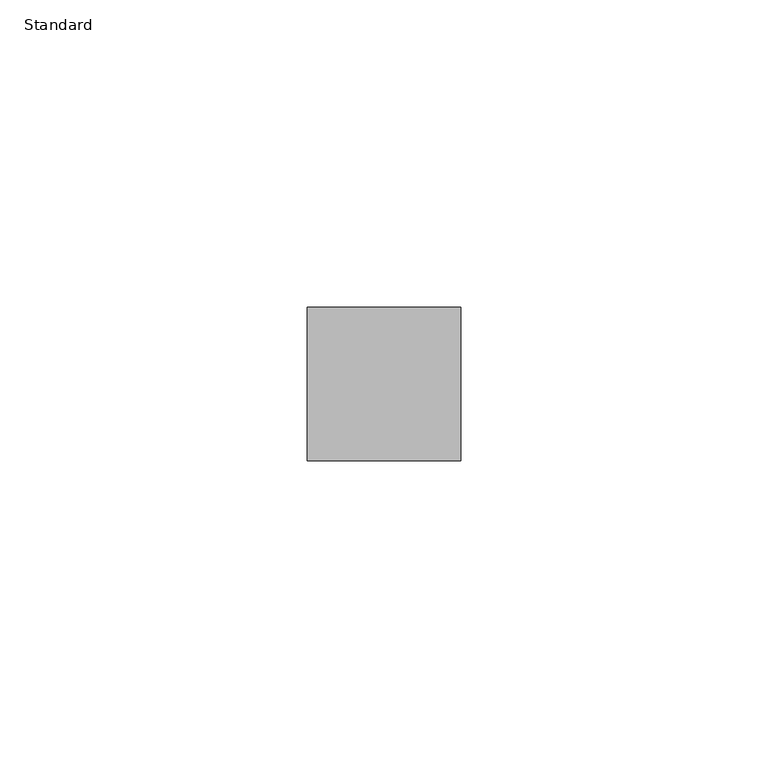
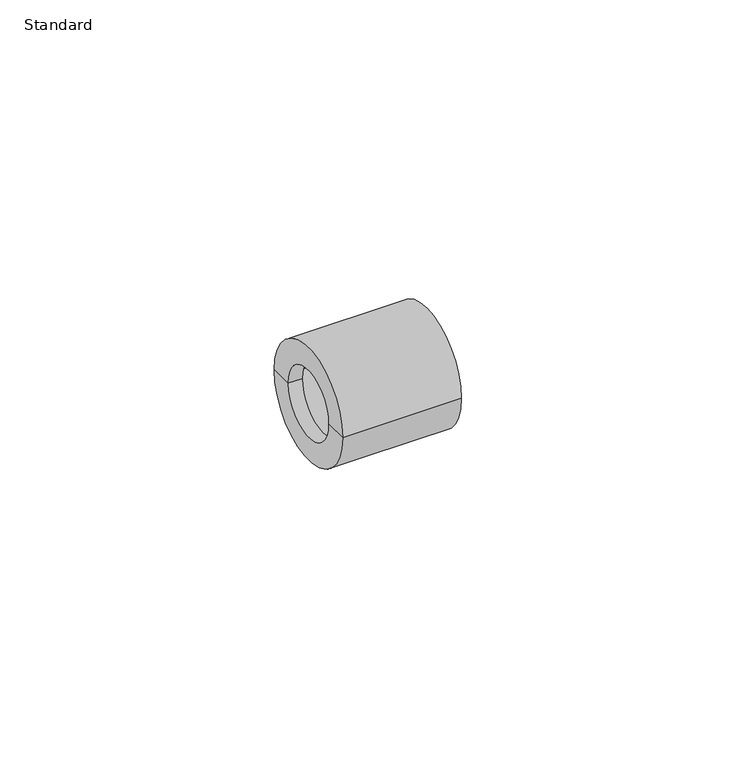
"""IFC4 building model written with IfcOpenShell, lengths in millimetres: pipe fitting geometry, Durapipe_PipeFitting_PVC_ReducingBush : Standard."""

from ifc_helpers import new_model, si_unit, frame, origin, place, context, project, spatial, polyline, circle_curve, source, transform, mapped, element, save
from ifc_brep_helpers import plane_surface, cylinder_surface, revolved_surface, advanced_brep


def standard_5070e319(model_context):
    return source(origin(), model_context, "Body", "AdvancedBrep", [
        advanced_brep(
        [(-3.0, -7.5, 0.0), (-3.0, 7.5, 0.0), (-3.0, 12.5, 0.0), (-3.0, -12.5, 0.0), (0.0, -7.5, 0.0), (0.0, 7.5, 0.0), (0.0, -10.0, 0.0), (0.0, 10.0, 0.0), (22.0, -10.0, 0.0), (22.0, 10.0, 0.0), (22.0, -12.5, 0.0), (22.0, 12.5, 0.0)],
        [
            (0, 1, circle_curve(frame((-3.0, 0.0, 0.0), z_axis=(1.0, 0.0, 0.0), x_axis=(0.0, 1.0, 0.0)), 7.5)),
            (1, 2),
            (2, 3, circle_curve(frame((-3.0, 0.0, 0.0), z_axis=(-1.0, 0.0, 0.0), x_axis=(0.0, 1.0, 0.0)), 12.5)),
            (3, 0),
            (1, 0, circle_curve(frame((-3.0, 0.0, 0.0), z_axis=(1.0, 0.0, 0.0), x_axis=(0.0, 1.0, 0.0)), 7.5)),
            (3, 2, circle_curve(frame((-3.0, 0.0, 0.0), z_axis=(-1.0, 0.0, 0.0), x_axis=(0.0, 1.0, 0.0)), 12.5)),
            (4, 5, circle_curve(frame((0.0, 0.0, 0.0), z_axis=(1.0, 0.0, 0.0), x_axis=(0.0, 1.0, 0.0)), 7.5)),
            (5, 1),
            (0, 4),
            (5, 4, circle_curve(frame((0.0, 0.0, 0.0), z_axis=(1.0, 0.0, 0.0), x_axis=(0.0, 1.0, 0.0)), 7.5)),
            (6, 7, circle_curve(frame((0.0, 0.0, 0.0), z_axis=(1.0, 0.0, 0.0), x_axis=(0.0, 1.0, 0.0)), 10.0)),
            (7, 5),
            (4, 6),
            (7, 6, circle_curve(frame((0.0, 0.0, 0.0), z_axis=(1.0, 0.0, 0.0), x_axis=(0.0, 1.0, 0.0)), 10.0)),
            (8, 9, circle_curve(frame((22.0, 0.0, 0.0), z_axis=(1.0, 0.0, 0.0), x_axis=(0.0, 1.0, 0.0)), 10.0)),
            (9, 7),
            (6, 8),
            (9, 8, circle_curve(frame((22.0, 0.0, 0.0), z_axis=(1.0, 0.0, 0.0), x_axis=(0.0, 1.0, 0.0)), 10.0)),
            (10, 11, circle_curve(frame((22.0, 0.0, 0.0), z_axis=(1.0, 0.0, 0.0), x_axis=(0.0, 1.0, 0.0)), 12.5)),
            (11, 9),
            (8, 10),
            (11, 10, circle_curve(frame((22.0, 0.0, 0.0), z_axis=(1.0, 0.0, 0.0), x_axis=(0.0, 1.0, 0.0)), 12.5)),
            (2, 11),
            (10, 3),
        ],
        [
            plane_surface(frame((-3.0, 0.0, 0.0), z_axis=(-1.0, 0.0, 0.0), x_axis=(0.0, 1.0, 0.0))),
            revolved_surface(polyline([(-3.0, 7.5, 0.0), (0.0, 7.5, 0.0)]), (2008.0, 0.0, 0.0), (-1.0, 0.0, 0.0)),
            plane_surface(frame((0.0, 0.0, 0.0), z_axis=(1.0, 0.0, 0.0), x_axis=(0.0, 1.0, 0.0))),
            revolved_surface(polyline([(0.0, 10.0, 0.0), (22.0, 10.0, 0.0)]), (2008.0, 0.0, 0.0), (-1.0, 0.0, 0.0)),
            plane_surface(frame((22.0, 0.0, 0.0), z_axis=(1.0, 0.0, 0.0), x_axis=(0.0, 1.0, 0.0))),
            cylinder_surface(frame((2008.0, 0.0, 0.0), z_axis=(-1.0, 0.0, 0.0), x_axis=(0.0, 1.0, 0.0)), 12.5),
        ],
        [
            (0, [[1, 2, 3, 4]]),
            (0, [[5, -4, 6, -2]]),
            (1, [[7, 8, -1, 9]]),
            (1, [[10, -9, -5, -8]]),
            (2, [[11, 12, -7, 13]]),
            (2, [[14, -13, -10, -12]]),
            (3, [[15, 16, -11, 17]]),
            (3, [[18, -17, -14, -16]]),
            (4, [[19, 20, -15, 21]]),
            (4, [[22, -21, -18, -20]]),
            (5, [[-3, 23, -19, 24]]),
            (5, [[-6, -24, -22, -23]]),
        ],
    ),
    ])


if __name__ == "__main__":
    model = new_model("IFC4")
    model_context = context("Model", 3, world=origin())
    ifc_project = project(units=[si_unit("LENGTHUNIT", "METRE", prefix="MILLI")], contexts=[model_context])
    site = spatial("IfcSite", under=ifc_project)
    building = spatial("IfcBuilding", under=site)
    placement = place(None, origin())
    standard_shape = standard_5070e319(model_context)
    element("IfcPipeFitting", 1, ObjectType="Durapipe_PipeFitting_PVC_ReducingBush : Standard", at=placement, inside=building, context=model_context, shape_type="MappedRepresentation", body=[
        mapped(standard_shape, transform((0.0, 0.0, 0.0), x_axis=(1.0, 0.0, 0.0), y_axis=(0.0, 1.0, 0.0), z_axis=(0.0, 0.0, 1.0))),
    ])
    save(model, "model.ifc")
